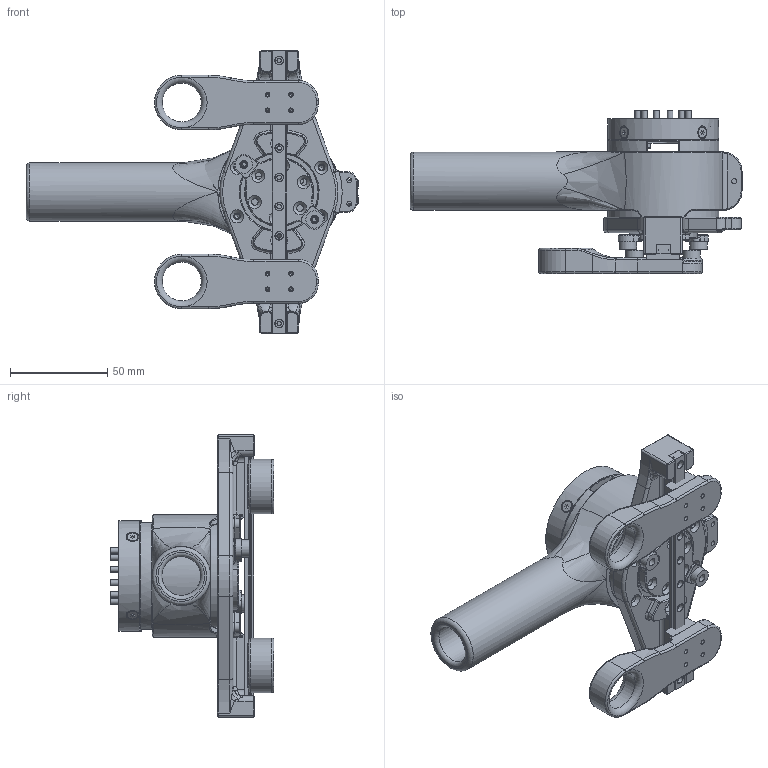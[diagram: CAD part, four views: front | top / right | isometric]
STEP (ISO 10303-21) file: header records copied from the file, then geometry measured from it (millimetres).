
FILE_DESCRIPTION (( 'STEP AP203' ), '1' );
FILE_NAME ('尨諒ん勤俋1202.STEP', '2024-12-09T08:36:21', ( '' ), ( '' ), 'SwSTEP 2.0', 'SolidWorks 2019', '' );
FILE_SCHEMA (( 'CONFIG_CONTROL_DESIGN' ));
Length unit declared in the file: millimetre
Products named in the file (16): M-JXB2-130102-C; M-JXB2-130100-D; hexagon socket head cap screws gb_GB_FASTENER_SCREWS_HSHCS M3X10-N; MGN7.145; 4310 熬厒萇儂Ver.B 3D; MGN7C; M-JXB2-130104-E; M-JXB2-130099-B; M-JXB2-130115-A; 尨諒ん勤俋1202; hexagon socket countersunk head screws gb_GB_FASTENER_SCREWS_HSCHS M3X16-N; 4310 熬厒萇儂Ver.B 3D20231203; F4.9M.P5 4.9.4芢薯粣創; M-JXB2-130107-B; M-JXB2-130103-D; M3.8_GB_FASTENER_SCREWS_HSCHS M3X16-N
Assembly tree (27 placements, depth 3):
  尨諒ん勤俋1202
    4310 熬厒萇儂Ver.B 3D20231203
      4310 熬厒萇儂Ver.B 3D
    MGN7.145
    MGN7C  x2
    M-JXB2-130099-B
    M-JXB2-130100-D
    M-JXB2-130102-C
    F4.9M.P5 4.9.4芢薯粣創  x4
    M-JXB2-130107-B
    M-JXB2-130103-D
    M-JXB2-130104-E
    M-JXB2-130115-A
    M3.8_GB_FASTENER_SCREWS_HSCHS M3X16-N  x6
    hexagon socket head cap screws gb_GB_FASTENER_SCREWS_HSHCS M3X10-N
    hexagon socket countersunk head screws gb_GB_FASTENER_SCREWS_HSCHS M3X16-N  x4
Bounding box: 170.46 x 84 x 145 mm (x, y, z)
Volume: 256527 mm3; surface area: 102435.4 mm2
Topology: 26 solids, 26 shells, 1526 faces, 3645 edges, 2143 vertices
Faces by surface type: plane 531, cylinder 464, cone 254, bspline 181, torus 96
Full cylindrical faces by diameter (mm): 1.6 x8, 2 x4, 2.2 x2, 2.4 x18, 2.5 x24, 2.9 x4, 3 x15, 3.4 x22, 3.5 x1, 4 x11, 4.2 x10, 5.5 x1, 5.54 x10, 6 x1, 6.72 x2, 9 x4, 20 x3, 24 x1, 30 x1, 35 x1, 35.5 x1, 40 x1, 57 x3, 57.2 x1
Entity records: 54458 total; most frequent: CARTESIAN_POINT 23666, DIRECTION 5882, ORIENTED_EDGE 5794, EDGE_CURVE 2897, AXIS2_PLACEMENT_3D 2362, VERTEX_POINT 1835, EDGE_LOOP 1698, FACE_OUTER_BOUND 1468
